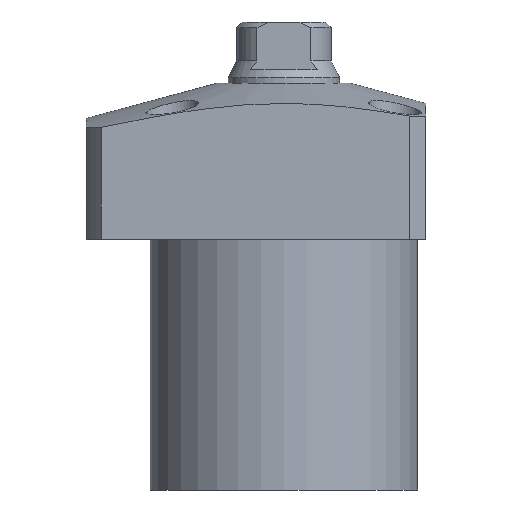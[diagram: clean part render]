
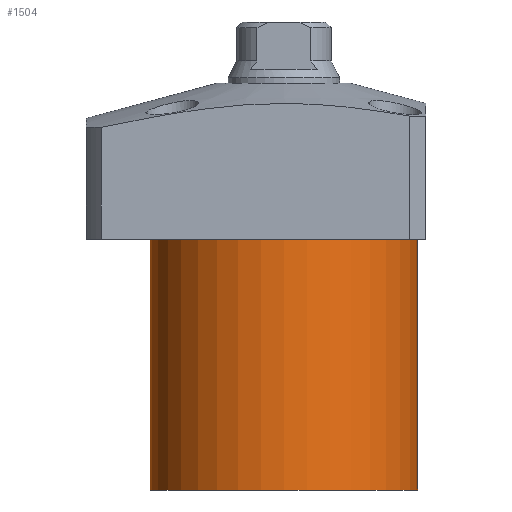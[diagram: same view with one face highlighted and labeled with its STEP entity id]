
A CAD part, front view. The second image highlights one B-rep face of the part: STEP entity #1504.
In plain terms, the highlighted cylindrical face has radius 24 mm (diameter 48 mm), a partial arc.
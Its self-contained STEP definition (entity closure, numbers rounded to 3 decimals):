
#218 = DIRECTION ( 'NONE',  ( 0., 0., -1. ) ) ;
#230 = DIRECTION ( 'NONE',  ( 1., 0., 0. ) ) ;
#245 = ORIENTED_EDGE ( 'NONE', *, *, #1936, .T. ) ;
#256 = CIRCLE ( 'NONE', #1520, 24. ) ;
#444 = CARTESIAN_POINT ( 'NONE',  ( 0., 0., -59. ) ) ;
#452 = CARTESIAN_POINT ( 'NONE',  ( 0., 0., -59. ) ) ;
#557 = VERTEX_POINT ( 'NONE', #2159 ) ;
#605 = FACE_OUTER_BOUND ( 'NONE', #2311, .T. ) ;
#878 = VECTOR ( 'NONE', #1444, 1000. ) ;
#927 = CIRCLE ( 'NONE', #2129, 24. ) ;
#957 = ORIENTED_EDGE ( 'NONE', *, *, #1117, .T. ) ;
#971 = CARTESIAN_POINT ( 'NONE',  ( 0., 0., -14. ) ) ;
#982 = VERTEX_POINT ( 'NONE', #2056 ) ;
#1065 = EDGE_CURVE ( 'NONE', #557, #982, #256, .T. ) ;
#1117 = EDGE_CURVE ( 'NONE', #557, #1549, #2241, .T. ) ;
#1212 = DIRECTION ( 'NONE',  ( 0., 0., 1. ) ) ;
#1224 = CARTESIAN_POINT ( 'NONE',  ( -24., 0., -14. ) ) ;
#1263 = ORIENTED_EDGE ( 'NONE', *, *, #2334, .F. ) ;
#1386 = DIRECTION ( 'NONE',  ( 0., 0., 1. ) ) ;
#1427 = DIRECTION ( 'NONE',  ( -1., 0., 0. ) ) ;
#1444 = DIRECTION ( 'NONE',  ( 0., 0., 1. ) ) ;
#1464 = CARTESIAN_POINT ( 'NONE',  ( 24., 0., -59. ) ) ;
#1504 = ADVANCED_FACE ( 'NONE', ( #605 ), #2016, .T. ) ;
#1520 = AXIS2_PLACEMENT_3D ( 'NONE', #452, #2019, #1427 ) ;
#1547 = VERTEX_POINT ( 'NONE', #1224 ) ;
#1549 = VERTEX_POINT ( 'NONE', #2002 ) ;
#1606 = VECTOR ( 'NONE', #1212, 1000. ) ;
#1663 = AXIS2_PLACEMENT_3D ( 'NONE', #444, #1386, #1964 ) ;
#1936 = EDGE_CURVE ( 'NONE', #1549, #1547, #927, .T. ) ;
#1964 = DIRECTION ( 'NONE',  ( 1., 0., 0. ) ) ;
#1975 = LINE ( 'NONE', #2364, #1606 ) ;
#1994 = ORIENTED_EDGE ( 'NONE', *, *, #1065, .F. ) ;
#2002 = CARTESIAN_POINT ( 'NONE',  ( 24., 0., -14. ) ) ;
#2016 = CYLINDRICAL_SURFACE ( 'NONE', #1663, 24. ) ;
#2019 = DIRECTION ( 'NONE',  ( 0., 0., -1. ) ) ;
#2056 = CARTESIAN_POINT ( 'NONE',  ( -24., 0., -59. ) ) ;
#2129 = AXIS2_PLACEMENT_3D ( 'NONE', #971, #218, #230 ) ;
#2159 = CARTESIAN_POINT ( 'NONE',  ( 24., 0., -59. ) ) ;
#2241 = LINE ( 'NONE', #1464, #878 ) ;
#2311 = EDGE_LOOP ( 'NONE', ( #1263, #1994, #957, #245 ) ) ;
#2334 = EDGE_CURVE ( 'NONE', #982, #1547, #1975, .T. ) ;
#2364 = CARTESIAN_POINT ( 'NONE',  ( -24., 0., -59. ) ) ;
